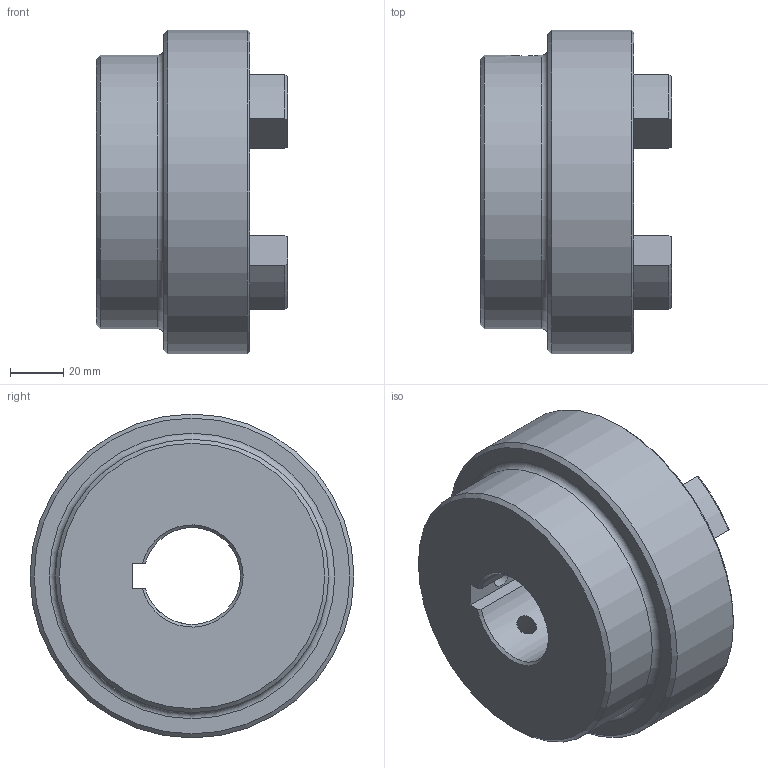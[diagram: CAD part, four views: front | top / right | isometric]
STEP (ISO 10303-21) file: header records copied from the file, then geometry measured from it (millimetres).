
FILE_DESCRIPTION (( 'STEP AP203' ), '1' );
FILE_NAME ('RC5.step', '2024-07-25T13:25:11', ( 'Adlan' ), ( '' ), 'SwSTEP 2.0', 'SolidWorks 2013', '' );
FILE_SCHEMA (( 'CONFIG_CONTROL_DESIGN' ));
Length unit declared in the file: inch
Products named in the file (1): RC5
Bounding box: 72.14 x 122.17 x 122.17 mm (x, y, z)
Volume: 431509.4 mm3; surface area: 59984 mm2
Topology: 1 solids, 1 shells, 83 faces, 210 edges, 131 vertices
Faces by surface type: cylinder 33, plane 19, torus 17, cone 14
Full cylindrical faces by diameter (mm): 7.937 x2, 103.124 x1, 122.174 x1
Entity records: 2789 total; most frequent: CARTESIAN_POINT 708, DIRECTION 446, ORIENTED_EDGE 394, EDGE_CURVE 197, AXIS2_PLACEMENT_3D 178, VERTEX_POINT 128, EDGE_LOOP 101, CIRCLE 94
